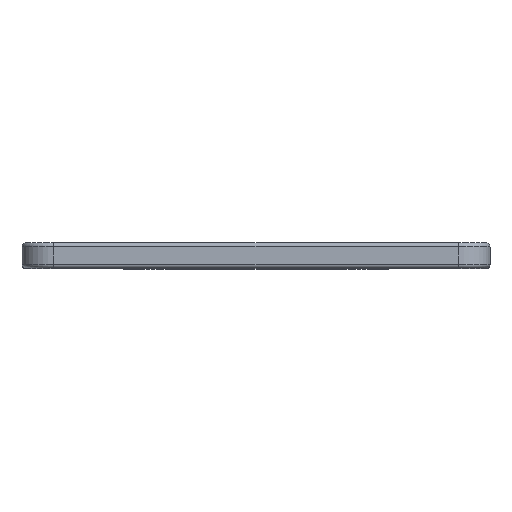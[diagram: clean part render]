
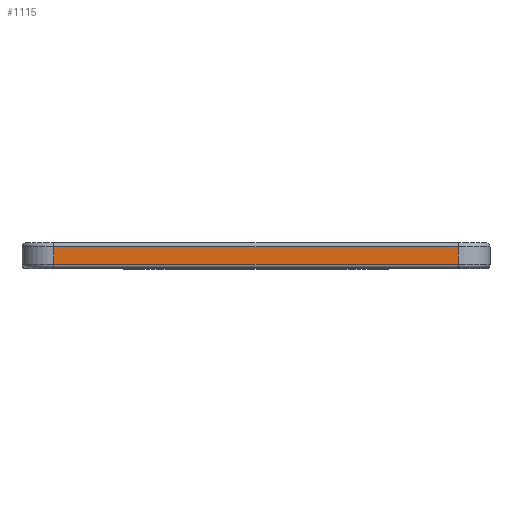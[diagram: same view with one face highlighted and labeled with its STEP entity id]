
A CAD part, top view. The second image highlights one B-rep face of the part: STEP entity #1115.
In plain terms, the highlighted planar face has unit normal (0, 0, 1).
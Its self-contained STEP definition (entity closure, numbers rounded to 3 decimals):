
#10 = EDGE_CURVE ( 'NONE', #1505, #1041, #936, .T. ) ;
#85 = CARTESIAN_POINT ( 'NONE',  ( -21.308, 0.3, 68.673 ) ) ;
#112 = CARTESIAN_POINT ( 'NONE',  ( -21.308, 1.7, 68.673 ) ) ;
#134 = EDGE_CURVE ( 'NONE', #1019, #1041, #586, .T. ) ;
#196 = ORIENTED_EDGE ( 'NONE', *, *, #1347, .T. ) ;
#411 = CARTESIAN_POINT ( 'NONE',  ( 10.692, 2., 68.673 ) ) ;
#427 = DIRECTION ( 'NONE',  ( -1., 0., 0. ) ) ;
#447 = DIRECTION ( 'NONE',  ( 0., -1., 0. ) ) ;
#562 = DIRECTION ( 'NONE',  ( 0., 0., -1. ) ) ;
#570 = CARTESIAN_POINT ( 'NONE',  ( 10.692, 1.7, 68.673 ) ) ;
#586 = LINE ( 'NONE', #1010, #718 ) ;
#645 = LINE ( 'NONE', #1753, #1173 ) ;
#679 = CARTESIAN_POINT ( 'NONE',  ( 10.692, 0.3, 68.673 ) ) ;
#706 = ORIENTED_EDGE ( 'NONE', *, *, #10, .T. ) ;
#711 = VECTOR ( 'NONE', #1569, 1000. ) ;
#718 = VECTOR ( 'NONE', #447, 1000. ) ;
#766 = VECTOR ( 'NONE', #831, 1000. ) ;
#831 = DIRECTION ( 'NONE',  ( 1., 0., 0. ) ) ;
#842 = PLANE ( 'NONE',  #1489 ) ;
#877 = ORIENTED_EDGE ( 'NONE', *, *, #134, .F. ) ;
#930 = FACE_OUTER_BOUND ( 'NONE', #945, .T. ) ;
#936 = LINE ( 'NONE', #679, #766 ) ;
#945 = EDGE_LOOP ( 'NONE', ( #877, #196, #1585, #706 ) ) ;
#1010 = CARTESIAN_POINT ( 'NONE',  ( 10.692, 2., 68.673 ) ) ;
#1019 = VERTEX_POINT ( 'NONE', #1381 ) ;
#1041 = VERTEX_POINT ( 'NONE', #1095 ) ;
#1095 = CARTESIAN_POINT ( 'NONE',  ( 10.692, 0.3, 68.673 ) ) ;
#1115 = ADVANCED_FACE ( 'NONE', ( #930 ), #842, .F. ) ;
#1173 = VECTOR ( 'NONE', #1335, 1000. ) ;
#1194 = VERTEX_POINT ( 'NONE', #112 ) ;
#1335 = DIRECTION ( 'NONE',  ( 0., -1., 0. ) ) ;
#1347 = EDGE_CURVE ( 'NONE', #1019, #1194, #1490, .T. ) ;
#1381 = CARTESIAN_POINT ( 'NONE',  ( 10.692, 1.7, 68.673 ) ) ;
#1489 = AXIS2_PLACEMENT_3D ( 'NONE', #411, #562, #427 ) ;
#1490 = LINE ( 'NONE', #570, #711 ) ;
#1505 = VERTEX_POINT ( 'NONE', #85 ) ;
#1569 = DIRECTION ( 'NONE',  ( -1., 0., 0. ) ) ;
#1585 = ORIENTED_EDGE ( 'NONE', *, *, #1622, .T. ) ;
#1622 = EDGE_CURVE ( 'NONE', #1194, #1505, #645, .T. ) ;
#1753 = CARTESIAN_POINT ( 'NONE',  ( -21.308, 2., 68.673 ) ) ;
